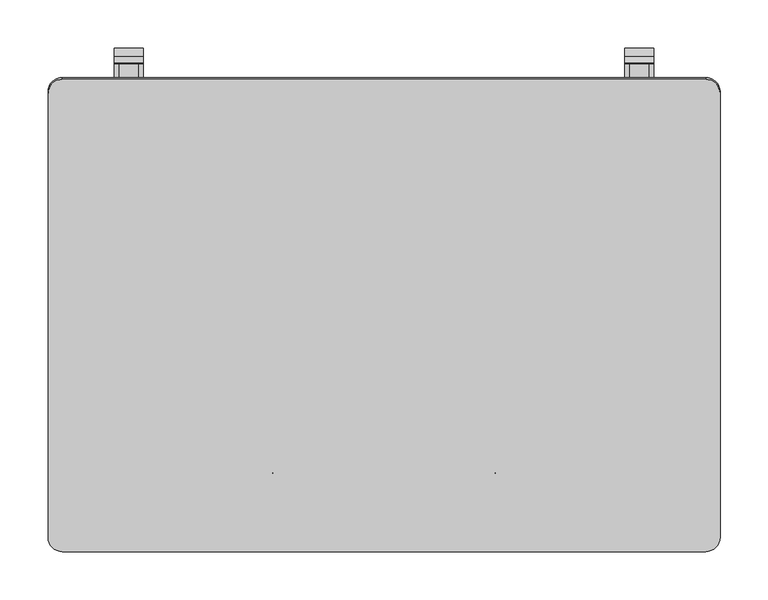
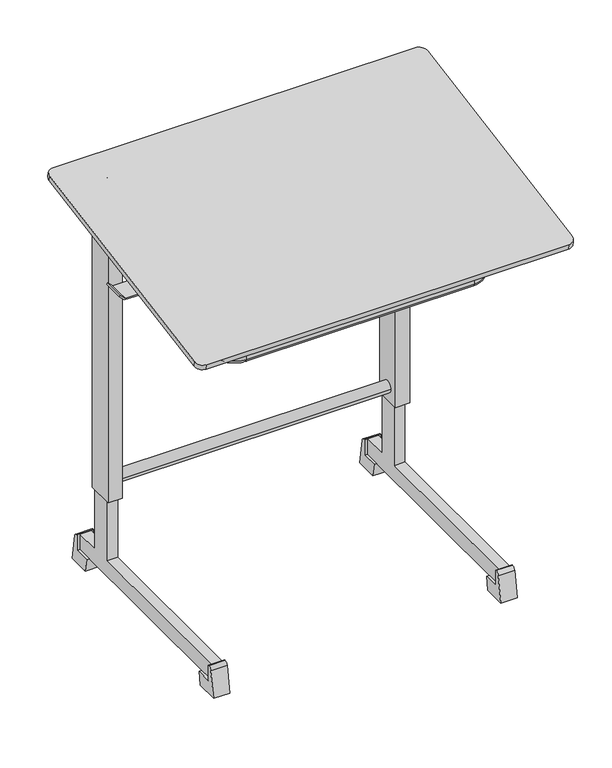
"""IFC4 building model written with IfcOpenShell, lengths in millimetres: furniture geometry, Trivia table : 70 tiltable with drawer."""

from ifc_helpers import new_model, si_unit, point, frame, frame_2d, origin, place, context, project, spatial, polyline, circle_curve, ellipse_curve, trimmed, segment, composite_curve, outline, extrude, faceted_brep, source, transform, mapped, element, save
from ifc_brep_helpers import plane_surface, cylinder_surface, revolved_surface, advanced_brep


def furniture_afccc64a(model_context):
    return source(origin(), model_context, "Body", "SolidModel", [
        advanced_brep(
        [(-242.1886902, -120.5095927, 696.521797), (-242.1886902, -120.5095927, 628.2965405), (-242.1886902, 129.6420925, 628.2965405), (-242.1886902, 144.6420925, 628.2965405), (-242.1886902, 144.6420925, 668.000493), (-242.1886902, 176.1657584, 668.000493), (-242.1886902, 176.1657584, 690.521797), (-242.1886902, 176.1657584, 696.521797), (-211.0, -151.6982829, 628.2965405), (211.0, -151.6982829, 628.2965405), (242.1886902, -120.5095927, 628.2965405), (242.1886902, 129.6420925, 628.2965405), (242.1886902, 144.6420925, 628.2965405), (242.1886902, -120.5095927, 622.2965405), (211.0, -151.6982829, 622.2965405), (-211.0, -151.6982829, 622.2965405), (-242.1886902, -120.5095927, 622.2965405), (-242.1886902, 129.6420925, 622.2965405), (-242.1886902, 144.6420925, 622.2965405), (242.1886902, 144.6420925, 622.2965405), (242.1886902, 129.6420925, 622.2965405), (-248.1886902, -120.5095927, 628.2965405), (-248.1886902, 150.6420925, 628.2965405), (-248.1886902, -120.5095927, 690.521797), (-248.1886902, 182.1657584, 690.521797), (-248.1886902, 182.1657584, 668.000493), (-248.1886902, 176.1657584, 662.000493), (-248.1886902, 150.6420925, 662.000493), (275.0, -120.5095927, 690.521797), (211.0, -184.5095927, 690.521797), (-211.0, -184.5095927, 690.521797), (-275.0, -120.5095927, 690.521797), (-275.0, 167.0000173, 690.521797), (-253.0, 167.0000173, 690.521797), (-253.0, 211.0000176, 690.521797), (253.0, 211.0000176, 690.521797), (253.0, 167.0000173, 690.521797), (275.0, 167.0000173, 690.521797), (-211.0, -157.6982829, 690.521797), (211.0, -157.6982829, 690.521797), (248.1886902, -120.5095927, 690.521797), (248.1886902, 182.1657584, 690.521797), (-281.0, -120.5095927, 670.0758066), (-281.0, -120.5095927, 696.521797), (-281.0, 167.0000173, 696.521797), (-281.0, 167.0000173, 670.0758066), (-211.0, -190.5095927, 696.521797), (211.0, -190.5095927, 696.521797), (281.0, -120.5095927, 696.521797), (281.0, 167.0000173, 696.521797), (253.0, 167.0000173, 696.521797), (253.0, 211.0000176, 696.521797), (-253.0, 211.0000176, 696.521797), (-253.0, 167.0000173, 696.521797), (242.1886902, -120.5095927, 696.521797), (211.0, -151.6982829, 696.521797), (-211.0, -151.6982829, 696.521797), (242.1886902, 176.1657584, 696.521797), (-211.0, -157.6982829, 628.2965405), (-211.0, -190.5095927, 670.0758066), (211.0, -157.6982829, 628.2965405), (211.0, -190.5095927, 670.0758066), (248.1886902, -120.5095927, 628.2965405), (281.0, -120.5095927, 670.0758066), (242.1886902, 176.1657584, 690.521797), (242.1886902, 176.1657584, 668.000493), (242.1886902, 144.6420925, 668.000493), (248.1886902, 150.6420925, 628.2965405), (248.1886902, 150.6420925, 662.000493), (248.1886902, 176.1657584, 662.000493), (248.1886902, 182.1657584, 668.000493), (281.0, 167.0000173, 670.0758066), (-242.1886902, 182.1657584, 668.000493), (242.1886902, 182.1657584, 668.000493), (-242.1886902, 176.1657584, 662.000493), (242.1886902, 176.1657584, 662.000493), (-253.0, 217.0000176, 662.000493), (-253.0, 211.0000176, 662.000493), (-253.0, 217.0000176, 690.521797), (253.0, 217.0000176, 690.521797), (253.0, 217.0000176, 662.000493), (253.0, 211.0000176, 662.000493), (-275.0, -120.5095927, 670.0758066), (-275.0, 167.0000173, 670.0758066), (-211.0, -184.5095927, 670.0758066), (211.0, -184.5095927, 670.0758066), (275.0, -120.5095927, 670.0758066), (275.0, 167.0000173, 670.0758066)],
        [
            (0, 1),
            (1, 2),
            (2, 3),
            (3, 4),
            (4, 5),
            (5, 6),
            (6, 7),
            (7, 0),
            (1, 8, circle_curve(frame((-211.0, -120.5095927, 628.2965405), z_axis=(0.0, 0.0, 1.0), x_axis=(-1.0, 0.0, 0.0)), 31.1886902)),
            (8, 9),
            (9, 10, circle_curve(frame((211.0, -120.5095927, 628.2965405), z_axis=(0.0, 0.0, 1.0), x_axis=(0.0, -1.0, 0.0)), 31.1886902)),
            (10, 11),
            (11, 12),
            (12, 3),
            (13, 14, circle_curve(frame((211.0, -120.5095927, 622.2965405), z_axis=(0.0, 0.0, -1.0), x_axis=(0.0, -1.0, 0.0)), 31.1886902)),
            (14, 15),
            (15, 16, circle_curve(frame((-211.0, -120.5095927, 622.2965405), z_axis=(0.0, 0.0, -1.0), x_axis=(-1.0, 0.0, 0.0)), 31.1886902)),
            (16, 17),
            (17, 18),
            (18, 19),
            (19, 20),
            (20, 13),
            (16, 21, circle_curve(frame((-242.1886902, -120.5095927, 628.2965405), z_axis=(0.0, 1.0, 0.0), x_axis=(1.0, 0.0, 0.0)), 6.0)),
            (21, 22),
            (22, 18, ellipse_curve(frame((-242.1886902, 144.6420925, 628.2965405), z_axis=(-0.707106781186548, -0.7071067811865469, 0.0), x_axis=(-0.7071067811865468, 0.7071067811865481, 0.0)), 8.4852814, 6.0)),
            (21, 23),
            (23, 24),
            (24, 25),
            (25, 26, circle_curve(frame((-248.1886902, 176.1657584, 668.000493), z_axis=(-1.0, 0.0, 0.0), x_axis=(0.0, 1.0, 0.0)), 6.0)),
            (26, 27),
            (27, 22),
            (28, 29, circle_curve(frame((211.0, -120.5095927, 690.521797), z_axis=(0.0, 0.0, -1.0), x_axis=(0.0, -1.0, 0.0)), 64.0)),
            (29, 30),
            (30, 31, circle_curve(frame((-211.0, -120.5095927, 690.521797), z_axis=(0.0, 0.0, -1.0), x_axis=(-1.0, 0.0, 0.0)), 64.0)),
            (31, 32),
            (32, 33),
            (33, 34),
            (34, 35),
            (35, 36),
            (36, 37),
            (37, 28),
            (23, 38, circle_curve(frame((-211.0, -120.5095927, 690.521797), z_axis=(0.0, 0.0, 1.0), x_axis=(-1.0, 0.0, 0.0)), 37.1886902)),
            (38, 39),
            (39, 40, circle_curve(frame((211.0, -120.5095927, 690.521797), z_axis=(0.0, 0.0, 1.0), x_axis=(0.0, -1.0, 0.0)), 37.1886902)),
            (40, 41),
            (41, 24),
            (42, 43),
            (43, 44),
            (44, 45),
            (45, 42),
            (43, 46, circle_curve(frame((-211.0, -120.5095927, 696.521797), z_axis=(0.0, 0.0, 1.0), x_axis=(-1.0, 0.0, 0.0)), 70.0)),
            (46, 47),
            (47, 48, circle_curve(frame((211.0, -120.5095927, 696.521797), z_axis=(0.0, 0.0, 1.0), x_axis=(0.0, -1.0, 0.0)), 70.0)),
            (48, 49),
            (49, 50),
            (50, 51),
            (51, 52),
            (52, 53),
            (53, 44),
            (54, 55, circle_curve(frame((211.0, -120.5095927, 696.521797), z_axis=(0.0, 0.0, -1.0), x_axis=(0.0, -1.0, 0.0)), 31.1886902)),
            (55, 56),
            (56, 0, circle_curve(frame((-211.0, -120.5095927, 696.521797), z_axis=(0.0, 0.0, -1.0), x_axis=(-1.0, 0.0, 0.0)), 31.1886902)),
            (7, 57),
            (57, 54),
            (56, 8),
            (15, 58, circle_curve(frame((-211.0, -151.6982829, 628.2965405), z_axis=(-1.0, 0.0, 0.0), x_axis=(0.0, 1.0, 0.0)), 6.0)),
            (58, 21, circle_curve(frame((-211.0, -120.5095927, 628.2965405), z_axis=(0.0, 0.0, -1.0), x_axis=(-1.0, 0.0, 0.0)), 37.1886902)),
            (58, 38),
            (42, 59, circle_curve(frame((-211.0, -120.5095927, 670.0758066), z_axis=(0.0, 0.0, 1.0), x_axis=(-1.0, 0.0, 0.0)), 70.0)),
            (59, 46),
            (55, 9),
            (14, 60, circle_curve(frame((211.0, -151.6982829, 628.2965405), z_axis=(-1.0, 0.0, 0.0), x_axis=(0.0, 1.0, 0.0)), 6.0)),
            (60, 58),
            (60, 39),
            (59, 61),
            (61, 47),
            (54, 10),
            (13, 62, circle_curve(frame((242.1886902, -120.5095927, 628.2965405), z_axis=(0.0, -1.0, 0.0), x_axis=(-1.0, 0.0, 0.0)), 6.0)),
            (62, 60, circle_curve(frame((211.0, -120.5095927, 628.2965405), z_axis=(0.0, 0.0, -1.0), x_axis=(0.0, -1.0, 0.0)), 37.1886902)),
            (62, 40),
            (61, 63, circle_curve(frame((211.0, -120.5095927, 670.0758066), z_axis=(0.0, 0.0, 1.0), x_axis=(0.0, -1.0, 0.0)), 70.0)),
            (63, 48),
            (57, 64),
            (64, 65),
            (65, 66),
            (66, 12),
            (19, 67, ellipse_curve(frame((242.1886902, 144.6420925, 628.2965405), z_axis=(0.7071067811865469, -0.707106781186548, 0.0), x_axis=(-0.7071067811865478, -0.707106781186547, 0.0)), 8.4852814, 6.0)),
            (67, 62),
            (67, 68),
            (68, 69),
            (69, 70, circle_curve(frame((248.1886902, 176.1657584, 668.000493), z_axis=(1.0, 0.0, 0.0), x_axis=(0.0, 1.0, 0.0)), 6.0)),
            (70, 41),
            (63, 71),
            (71, 49),
            (72, 25),
            (70, 73),
            (73, 72),
            (26, 74),
            (74, 75),
            (75, 69),
            (68, 27),
            (67, 22),
            (72, 74, circle_curve(frame((-242.1886902, 176.1657584, 668.000493), z_axis=(-1.0, 0.0, 0.0), x_axis=(0.0, 1.0, 0.0)), 6.0)),
            (75, 73, circle_curve(frame((242.1886902, 176.1657584, 668.000493), z_axis=(1.0, 0.0, 0.0), x_axis=(0.0, 1.0, 0.0)), 6.0)),
            (76, 77),
            (77, 34),
            (33, 53),
            (52, 78, circle_curve(frame((-253.0, 211.0000176, 690.521797), z_axis=(-1.0, 0.0, 0.0), x_axis=(0.0, 1.0, 0.0)), 6.0)),
            (78, 76),
            (79, 80),
            (80, 76),
            (78, 79),
            (5, 65),
            (4, 66),
            (51, 79, circle_curve(frame((253.0, 211.0000176, 690.521797), z_axis=(-1.0, 0.0, 0.0), x_axis=(0.0, 1.0, 0.0)), 6.0)),
            (81, 35),
            (77, 81),
            (80, 81),
            (31, 82),
            (82, 83),
            (83, 32),
            (45, 83),
            (82, 84, circle_curve(frame((-211.0, -120.5095927, 670.0758066), z_axis=(0.0, 0.0, 1.0), x_axis=(-1.0, 0.0, 0.0)), 64.0)),
            (84, 85),
            (85, 86, circle_curve(frame((211.0, -120.5095927, 670.0758066), z_axis=(0.0, 0.0, 1.0), x_axis=(0.0, -1.0, 0.0)), 64.0)),
            (86, 87),
            (87, 71),
            (30, 84),
            (29, 85),
            (28, 86),
            (37, 87),
            (50, 36),
        ],
        [
            plane_surface(frame((-242.1886902, 249.4904073, 696.521797), z_axis=(1.0, 0.0, 0.0), x_axis=(0.0, -1.0, 0.0))),
            plane_surface(frame((-242.1886902, 249.4904073, 628.2965405), z_axis=(0.0, 0.0, 1.0), x_axis=(0.0, -1.0, 0.0))),
            plane_surface(frame((-233.3465399, 249.4904073, 622.2965405), z_axis=(0.0, 0.0, -1.0), x_axis=(0.0, -1.0, 0.0))),
            cylinder_surface(frame((-242.1886902, 249.4904073, 628.2965405), z_axis=(0.0, 1.0, 0.0), x_axis=(1.0, 0.0, 0.0)), 6.0),
            plane_surface(frame((-248.1886902, 249.4904073, 628.2965405), z_axis=(-1.0, 0.0, 0.0), x_axis=(0.0, -1.0, 0.0))),
            plane_surface(frame((-248.1886902, 249.4904073, 690.521797), z_axis=(0.0, 0.0, -1.0), x_axis=(0.0, -1.0, 0.0))),
            plane_surface(frame((-281.0, 249.4904073, 670.0758066), z_axis=(-1.0, 0.0, 0.0), x_axis=(0.0, -1.0, 0.0))),
            plane_surface(frame((-281.0, 249.4904073, 696.521797), z_axis=(0.0, 0.0, 1.0), x_axis=(0.0, -1.0, 0.0))),
            revolved_surface(polyline([(-242.1886902, -120.5095927, 696.521797), (-242.1886902, -120.5095927, 628.2965405)]), (-211.0, -120.5095927, 729.9880943), (0.0, 0.0, 1.0)),
            revolved_surface(trimmed(ellipse_curve(frame((-242.1886902, -120.5095927, 628.2965405), z_axis=(0.0, 1.0, 0.0), x_axis=(1.0, 0.0, 0.0)), 6.0, 6.0), [point((-242.1886902, -120.5095927, 622.2965405))], [point((-248.1886902, -120.5095927, 628.2965405))], True, "CARTESIAN"), (-211.0, -120.5095927, 729.9880943), (0.0, 0.0, 1.0)),
            cylinder_surface(frame((-211.0, -120.5095927, 729.9880943), z_axis=(0.0, 0.0, 1.0), x_axis=(-1.0, 0.0, 0.0)), 37.1886902),
            cylinder_surface(frame((-211.0, -120.5095927, 729.9880943), z_axis=(0.0, 0.0, 1.0), x_axis=(-1.0, 0.0, 0.0)), 70.0),
            plane_surface(frame((-211.0, -151.6982829, 696.521797), z_axis=(0.0, 1.0, 0.0), x_axis=(1.0, 0.0, 0.0))),
            cylinder_surface(frame((-211.0, -151.6982829, 628.2965405), z_axis=(-1.0, 0.0, 0.0), x_axis=(0.0, 1.0, 0.0)), 6.0),
            plane_surface(frame((-211.0, -157.6982829, 628.2965405), z_axis=(0.0, -1.0, 0.0), x_axis=(1.0, 0.0, 0.0))),
            plane_surface(frame((-211.0, -190.5095927, 670.0758066), z_axis=(0.0, -1.0, 0.0), x_axis=(1.0, 0.0, 0.0))),
            revolved_surface(polyline([(211.0, -151.6982829, 696.521797), (211.0, -151.6982829, 628.2965405)]), (211.0, -120.5095927, 729.9880943), (0.0, 0.0, 1.0)),
            revolved_surface(trimmed(ellipse_curve(frame((211.0, -151.6982829, 628.2965405), z_axis=(-1.0, 0.0, 0.0), x_axis=(0.0, 1.0, 0.0)), 6.0, 6.0), [point((211.0, -151.6982829, 622.2965405))], [point((211.0, -157.6982829, 628.2965405))], True, "CARTESIAN"), (211.0, -120.5095927, 729.9880943), (0.0, 0.0, 1.0)),
            cylinder_surface(frame((211.0, -120.5095927, 729.9880943), z_axis=(0.0, 0.0, 1.0), x_axis=(0.0, -1.0, 0.0)), 37.1886902),
            cylinder_surface(frame((211.0, -120.5095927, 729.9880943), z_axis=(0.0, 0.0, 1.0), x_axis=(0.0, -1.0, 0.0)), 70.0),
            plane_surface(frame((242.1886902, -120.5095927, 696.521797), z_axis=(-1.0, 0.0, 0.0), x_axis=(0.0, 1.0, 0.0))),
            cylinder_surface(frame((242.1886902, -120.5095927, 628.2965405), z_axis=(0.0, -1.0, 0.0), x_axis=(-1.0, 0.0, 0.0)), 6.0),
            plane_surface(frame((248.1886902, -120.5095927, 628.2965405), z_axis=(1.0, 0.0, 0.0), x_axis=(0.0, 1.0, 0.0))),
            plane_surface(frame((281.0, -120.5095927, 670.0758066), z_axis=(1.0, 0.0, 0.0), x_axis=(0.0, 1.0, 0.0))),
            plane_surface(frame((300.0, 182.1657584, 696.521797), z_axis=(0.0, 1.0, 0.0), x_axis=(-1.0, 0.0, 0.0))),
            plane_surface(frame((300.0, 176.1657584, 662.000493), z_axis=(0.0, 0.0, -1.0), x_axis=(-1.0, 0.0, 0.0))),
            plane_surface(frame((300.0, 150.6420925, 662.000493), z_axis=(0.0, 1.0, 0.0), x_axis=(-1.0, 0.0, 0.0))),
            cylinder_surface(frame((-300.0, 176.1657584, 668.000493), z_axis=(-1.0, 0.0, 0.0), x_axis=(0.0, 1.0, 0.0)), 6.0),
            cylinder_surface(frame((-300.0, 144.6420925, 628.2965405), z_axis=(-1.0, 0.0, 0.0), x_axis=(0.0, 1.0, 0.0)), 6.0),
            plane_surface(frame((-253.0, 217.0000176, 696.521797), z_axis=(-1.0, 0.0, 0.0), x_axis=(0.0, 0.0, -1.0))),
            plane_surface(frame((253.0, 217.0000176, 662.000493), z_axis=(0.0, 1.0, 0.0), x_axis=(-1.0, 0.0, 0.0))),
            plane_surface(frame((253.0, 176.1657584, 696.521797), z_axis=(0.0, -1.0, 0.0), x_axis=(-1.0, 0.0, 0.0))),
            plane_surface(frame((253.0, 176.1657584, 668.000493), z_axis=(0.0, 0.0, 1.0), x_axis=(-1.0, 0.0, 0.0))),
            plane_surface(frame((253.0, 144.6420925, 668.000493), z_axis=(0.0, -1.0, 0.0), x_axis=(-1.0, 0.0, 0.0))),
            cylinder_surface(frame((-253.0, 176.1657584, 668.000493), z_axis=(1.0, 0.0, 0.0), x_axis=(0.0, 1.0, 0.0)), 6.0),
            cylinder_surface(frame((-253.0, 211.0000176, 690.521797), z_axis=(1.0, 0.0, 0.0), x_axis=(0.0, 1.0, 0.0)), 6.0),
            plane_surface(frame((253.0, 211.0000176, 690.521797), z_axis=(0.0, -1.0, 0.0), x_axis=(-1.0, 0.0, 0.0))),
            plane_surface(frame((253.0, 211.0000176, 662.000493), z_axis=(0.0, 0.0, -1.0), x_axis=(-1.0, 0.0, 0.0))),
            plane_surface(frame((-275.0, 249.4904073, 690.521797), z_axis=(1.0, 0.0, 0.0), x_axis=(0.0, -1.0, 0.0))),
            plane_surface(frame((-275.0, 249.4904073, 670.0758066), z_axis=(0.0, 0.0, -1.0), x_axis=(0.0, -1.0, 0.0))),
            revolved_surface(polyline([(-275.0, -120.5095927, 690.521797), (-275.0, -120.5095927, 670.0758066)]), (-211.0, -120.5095927, 729.9880943), (0.0, 0.0, 1.0)),
            plane_surface(frame((-211.0, -184.5095927, 690.521797), z_axis=(0.0, 1.0, 0.0), x_axis=(1.0, 0.0, 0.0))),
            revolved_surface(polyline([(211.0, -184.50959269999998, 690.521797), (211.0, -184.50959269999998, 670.0758066)]), (211.0, -120.5095927, 729.9880943), (0.0, 0.0, 1.0)),
            plane_surface(frame((275.0, -120.5095927, 690.521797), z_axis=(-1.0, 0.0, 0.0), x_axis=(0.0, 1.0, 0.0))),
            plane_surface(frame((253.0, 167.0000173, 696.521797), z_axis=(1.0, 0.0, 0.0), x_axis=(0.0, 0.0, 1.0))),
            plane_surface(frame((281.0, 167.0000173, 696.521797), z_axis=(0.0, 1.0, 0.0), x_axis=(-1.0, 0.0, 0.0))),
            plane_surface(frame((-281.0, 167.0000173, 622.2965405), z_axis=(0.0, 1.0, 0.0), x_axis=(1.0, 0.0, 0.0))),
        ],
        [
            (0, [[1, 2, 3, 4, 5, 6, 7, 8]]),
            (1, [[9, 10, 11, 12, 13, 14, -3, -2]]),
            (2, [[15, 16, 17, 18, 19, 20, 21, 22]]),
            (3, [[23, 24, 25, -19, -18]]),
            (4, [[26, 27, 28, 29, 30, 31, -24]]),
            (5, [[32, 33, 34, 35, 36, 37, 38, 39, 40, 41], [42, 43, 44, 45, 46, -27]]),
            (6, [[47, 48, 49, 50]]),
            (7, [[51, 52, 53, 54, 55, 56, 57, 58, 59, -48], [60, 61, 62, -8, 63, 64]]),
            (8, [[-1, -62, 65, -9]]),
            (9, [[-17, 66, 67, -23]]),
            (10, [[-26, -67, 68, -42]]),
            (11, [[-47, 69, 70, -51]]),
            (12, [[-10, -65, -61, 71]]),
            (13, [[-16, 72, 73, -66]]),
            (14, [[-43, -68, -73, 74]]),
            (15, [[-52, -70, 75, 76]]),
            (16, [[-11, -71, -60, 77]]),
            (17, [[-15, 78, 79, -72]]),
            (18, [[-44, -74, -79, 80]]),
            (19, [[-53, -76, 81, 82]]),
            (20, [[-77, -64, 83, 84, 85, 86, -13, -12]]),
            (21, [[-78, -22, -21, 87, 88]]),
            (22, [[-80, -88, 89, 90, 91, 92, -45]]),
            (23, [[-82, 93, 94, -54]]),
            (24, [[95, -28, -46, -92, 96, 97]]),
            (25, [[98, 99, 100, -90, 101, -30]]),
            (26, [[-31, -101, -89, 102]]),
            (27, [[-98, -29, -95, 103]]),
            (27, [[-100, 104, -96, -91]]),
            (28, [[-20, -25, -102, -87]]),
            (29, [[105, 106, -37, 107, -58, 108, 109]]),
            (30, [[110, 111, -109, 112]]),
            (31, [[113, -84, -83, -63, -7, -6]]),
            (32, [[-113, -5, 114, -85]]),
            (33, [[-114, -4, -14, -86]]),
            (34, [[-99, -103, -97, -104]]),
            (35, [[115, -112, -108, -57]]),
            (36, [[116, -38, -106, 117]]),
            (37, [[118, -117, -105, -111]]),
            (38, [[119, 120, 121, -35]]),
            (39, [[-69, -50, 122, -120, 123, 124, 125, 126, 127, -93, -81, -75]]),
            (40, [[-34, 128, -123, -119]]),
            (41, [[-33, 129, -124, -128]]),
            (42, [[-32, 130, -125, -129]]),
            (43, [[-130, -41, 131, -126]]),
            (44, [[132, -39, -116, -118, -110, -115, -56]]),
            (45, [[-132, -55, -94, -127, -131, -40]]),
            (46, [[-107, -36, -121, -122, -49, -59]]),
        ],
    ),
        extrude(outline(polyline([(-279.0, 167.0000173), (-279.0, 217.0000176), (-253.0, 217.0000176), (-253.0, 167.0000173), (-279.0, 167.0000173)])), frame((0.0, 0.0, 690.521797), z_axis=(0.0, 0.0, 1.0), x_axis=(1.0, 0.0, 0.0)), (0.0, 0.0, 1.0), 6.0),
        extrude(outline(polyline([(279.0, 217.0000176), (279.0, 167.0000173), (253.0, 167.0000173), (253.0, 217.0000176), (279.0, 217.0000176)])), frame((0.0, 0.0, 690.521797), z_axis=(0.0, 0.0, 1.0), x_axis=(1.0, 0.0, 0.0)), (0.0, 0.0, 1.0), 6.0),
        extrude(outline(composite_curve([segment(polyline([(209.8609292, 696.5337027), (172.337409, 696.5337027), (172.337409, 764.4606409), (202.8945629, 780.9470192)]), True, "CONTINUOUS"), segment(trimmed(circle_curve(frame_2d((206.1065452, 774.9936779)), 6.7645475), [point((202.8945629, 780.9470192))], [point((212.6701567, 773.3571858))], False, "CARTESIAN"), True, "CONTINUOUS"), segment(polyline([(212.6701567, 773.3571858), (209.8609292, 762.0899894), (209.8609292, 696.5337027)]), True, "CONTINUOUS")], self_intersect=False), holes=[composite_curve([segment(trimmed(circle_curve(frame_2d((206.4529115, 775.5845406)), 3.0), [point((203.4529115, 775.5845406))], [point((209.4529115, 775.5845406))], True, "CARTESIAN"), True, "CONTINUOUS"), segment(trimmed(circle_curve(frame_2d((206.4529115, 775.5845406)), 3.0), [point((209.4529115, 775.5845406))], [point((203.4529115, 775.5845406))], True, "CARTESIAN"), True, "CONTINUOUS")], self_intersect=False)]), frame((-258.0, 0.0, 0.0), z_axis=(1.0, 0.0, 0.0), x_axis=(0.0, 1.0, 0.0)), (0.0, 0.0, 1.0), 3.0),
        extrude(outline(composite_curve([segment(polyline([(209.8609292, 696.5337027), (172.337409, 696.5337027), (172.337409, 764.4606409), (202.8945629, 780.9470192)]), True, "CONTINUOUS"), segment(trimmed(circle_curve(frame_2d((206.1065452, 774.9936779)), 6.7645475), [point((202.8945629, 780.9470192))], [point((212.6701567, 773.3571858))], False, "CARTESIAN"), True, "CONTINUOUS"), segment(polyline([(212.6701567, 773.3571858), (209.8609292, 762.0899894), (209.8609292, 696.5337027)]), True, "CONTINUOUS")], self_intersect=False), holes=[composite_curve([segment(trimmed(circle_curve(frame_2d((206.4529115, 775.5845406)), 3.0), [point((203.4529115, 775.5845406))], [point((209.4529115, 775.5845406))], True, "CARTESIAN"), True, "CONTINUOUS"), segment(trimmed(circle_curve(frame_2d((206.4529115, 775.5845406)), 3.0), [point((209.4529115, 775.5845406))], [point((203.4529115, 775.5845406))], True, "CARTESIAN"), True, "CONTINUOUS")], self_intersect=False)]), frame((255.0, 0.0, 0.0), z_axis=(1.0, 0.0, 0.0), x_axis=(0.0, 1.0, 0.0)), (0.0, 0.0, 1.0), 3.0),
        extrude(outline(polyline([(0.0, -50.1182647), (0.0, 0.0), (28.0, 0.0), (28.0, -50.1182647), (0.0, -50.1182647)])), frame((-280.0, 203.7416087, 782.5941187), z_axis=(0.0, -0.1736481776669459, 0.9848077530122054), x_axis=(1.0, 0.0, 0.0)), (0.0, 0.0, 1.0), 2.5978465),
        extrude(outline(composite_curve([segment(trimmed(circle_curve(frame_2d((206.4529115, 775.5845406)), 9.7445512), [point((204.760788, 785.1810501))], [point((204.1825075, 766.108173))], False, "CARTESIAN"), True, "CONTINUOUS"), segment(polyline([(204.1825075, 766.108173), (171.5752359, 776.9223193), (171.1635766, 779.2569553), (204.760788, 785.1810501)]), True, "CONTINUOUS")], self_intersect=False)), frame((-255.0, 0.0, 0.0), z_axis=(1.0, 0.0, 0.0), x_axis=(0.0, 1.0, 0.0)), (0.0, 0.0, 1.0), 3.0),
        extrude(outline(polyline([(0.0, -50.1182647), (0.0, 0.0), (28.0, 0.0), (28.0, -50.1182647), (0.0, -50.1182647)])), frame((280.0, 154.384753, 773.8911734), z_axis=(0.0, -0.1736481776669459, 0.9848077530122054), x_axis=(-1.0, 0.0, 0.0)), (0.0, 0.0, 1.0), 2.5978465),
        extrude(outline(composite_curve([segment(trimmed(circle_curve(frame_2d((206.4529115, 775.5845406)), 9.7445512), [point((204.760788, 785.1810501))], [point((204.1825075, 766.108173))], False, "CARTESIAN"), True, "CONTINUOUS"), segment(polyline([(204.1825075, 766.108173), (171.5752359, 776.9223193), (171.1635766, 779.2569553), (204.760788, 785.1810501)]), True, "CONTINUOUS")], self_intersect=False)), frame((252.0, 0.0, 0.0), z_axis=(1.0, 0.0, 0.0), x_axis=(0.0, 1.0, 0.0)), (0.0, 0.0, 1.0), 3.0),
        extrude(outline(composite_curve([segment(trimmed(circle_curve(frame_2d((0.0, -8.0)), 8.0), [point((0.0, -16.0))], [point((0.0, 0.0))], False, "CARTESIAN"), True, "CONTINUOUS"), segment(trimmed(circle_curve(frame_2d((0.0, -8.0)), 8.0), [point((0.0, 0.0))], [point((0.0, -16.0))], False, "CARTESIAN"), True, "CONTINUOUS")], self_intersect=False)), frame((-115.5, -162.1328007, 696.8902084), z_axis=(0.0, -0.17364817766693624, 0.984807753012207), x_axis=(0.0, -0.984807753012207, -0.17364817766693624)), (0.0, 0.0, 1.0), 23.4662973),
        extrude(outline(composite_curve([segment(trimmed(circle_curve(frame_2d((0.0, 239.0)), 8.0), [point((0.0, 231.0))], [point((0.0, 247.0))], False, "CARTESIAN"), True, "CONTINUOUS"), segment(trimmed(circle_curve(frame_2d((0.0, 239.0)), 8.0), [point((0.0, 247.0))], [point((0.0, 231.0))], False, "CARTESIAN"), True, "CONTINUOUS")], self_intersect=False)), frame((-115.5, -162.1328007, 696.8902084), z_axis=(0.0, -0.17364817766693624, 0.984807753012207), x_axis=(0.0, -0.984807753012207, -0.17364817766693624)), (0.0, 0.0, 1.0), 23.4662973),
        extrude(outline(composite_curve([segment(polyline([(15.0, -15.0), (15.0, -685.0)]), True, "CONTINUOUS"), segment(trimmed(circle_curve(frame_2d((0.0, -685.0)), 15.0), [point((15.0, -685.0))], [point((0.0, -700.0))], False, "CARTESIAN"), True, "CONTINUOUS"), segment(polyline([(0.0, -700.0), (-470.0, -700.0)]), True, "CONTINUOUS"), segment(trimmed(circle_curve(frame_2d((-470.0, -685.0)), 15.0), [point((-470.0, -700.0))], [point((-485.0, -685.0))], False, "CARTESIAN"), True, "CONTINUOUS"), segment(polyline([(-485.0, -685.0), (-485.0, -15.0)]), True, "CONTINUOUS"), segment(trimmed(circle_curve(frame_2d((-470.0, -15.0)), 15.0), [point((-485.0, -15.0))], [point((-470.0, 0.0))], False, "CARTESIAN"), True, "CONTINUOUS"), segment(polyline([(-470.0, 0.0), (0.0, 0.0)]), True, "CONTINUOUS"), segment(trimmed(circle_curve(frame_2d((0.0, -15.0)), 15.0), [point((0.0, 0.0))], [point((15.0, -15.0))], False, "CARTESIAN"), True, "CONTINUOUS")], self_intersect=False)), frame((350.0, -230.0249139, 708.7472999), z_axis=(0.0, -0.17364817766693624, 0.984807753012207), x_axis=(0.0, -0.984807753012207, -0.17364817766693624)), (0.0, 0.0, 1.0), 10.0),
        extrude(outline(polyline([(279.0, 217.0000176), (279.0, 167.0000173), (253.0, 167.0000173), (253.0, 217.0000176), (279.0, 217.0000176)])), frame((0.0, 0.0, 690.0), z_axis=(0.0, 0.0, 1.0), x_axis=(1.0, 0.0, 0.0)), (0.0, 0.0, 1.0), 6.5337027),
        extrude(outline(polyline([(-279.0, 167.0000173), (-279.0, 217.0000176), (-253.0, 217.0000176), (-253.0, 167.0000173), (-279.0, 167.0000173)])), frame((0.0, 0.0, 690.0), z_axis=(0.0, 0.0, 1.0), x_axis=(1.0, 0.0, 0.0)), (0.0, 0.0, 1.0), 6.5337027),
        faceted_brep([(-256.0, 167.0000173, 669.978232), (-256.0, 167.0000173, 624.071059), (-259.0, 167.0000173, 624.071059), (-259.0, 167.0000173, 669.978232), (-256.0, 138.1962488, 624.071059), (-259.0, 138.1962488, 624.071059), (-256.0, 97.8407812, 617.478232), (-256.0, 97.8407812, 669.978232), (-259.0, 97.8407812, 669.978232), (-259.0, 97.8407812, 620.478232), (-287.2573593, 97.8407812, 620.478232), (-296.274477, 97.8407812, 629.4953497), (-298.3957973, 97.8407812, 627.3740293), (-288.5, 97.8407812, 617.478232), (-256.0, 138.1962488, 617.478232), (-288.5, 138.1962488, 617.478232), (-298.3957973, 138.1962488, 627.3740293), (-296.274477, 138.1962488, 629.4953497), (-287.2573593, 138.1962488, 620.478232), (-259.0, 138.1962488, 620.478232)], [[[0, 1, 2, 3]], [[2, 1, 4, 5]], [[6, 7, 8, 9, 10, 11, 12, 13]], [[14, 15, 16, 17, 18, 19, 5, 4]], [[10, 9, 19, 18]], [[11, 10, 18, 17]], [[12, 11, 17, 16]], [[13, 12, 16, 15]], [[6, 13, 15, 14]], [[9, 8, 3, 2, 5, 19]], [[7, 6, 14, 4, 1, 0]], [[8, 7, 0, 3]]]),
        faceted_brep([(256.0, 167.0000173, 669.978232), (259.0, 167.0000173, 669.978232), (259.0, 167.0000173, 624.071059), (256.0, 167.0000173, 624.071059), (259.0, 97.8407812, 669.978232), (259.0, 97.8407812, 620.478232), (259.0, 138.1962488, 620.478232), (259.0, 138.1962488, 624.071059), (256.0, 138.1962488, 624.071059), (256.0, 138.1962488, 617.478232), (256.0, 97.8407812, 617.478232), (256.0, 97.8407812, 669.978232), (288.5, 97.8407812, 617.478232), (298.3957973, 97.8407812, 627.3740293), (296.274477, 97.8407812, 629.4953497), (287.2573593, 97.8407812, 620.478232), (287.2573593, 138.1962488, 620.478232), (296.274477, 138.1962488, 629.4953497), (298.3957973, 138.1962488, 627.3740293), (288.5, 138.1962488, 617.478232)], [[[0, 1, 2, 3]], [[2, 1, 4, 5, 6, 7]], [[3, 2, 7, 8]], [[0, 3, 8, 9, 10, 11]], [[10, 12, 13, 14, 15, 5, 4, 11]], [[6, 16, 17, 18, 19, 9, 8, 7]], [[5, 15, 16, 6]], [[15, 14, 17, 16]], [[14, 13, 18, 17]], [[13, 12, 19, 18]], [[12, 10, 9, 19]], [[1, 0, 11, 4]]]),
        extrude(outline(polyline([(-279.0, 167.0000173), (-279.0, 217.0000176), (-253.0, 217.0000176), (-253.0, 167.0000173), (-279.0, 167.0000173)])), frame((0.0, 0.0, 175.0), z_axis=(0.0, 0.0, 1.0), x_axis=(1.0, 0.0, 0.0)), (0.0, 0.0, 1.0), 515.000029),
        extrude(outline(polyline([(279.0, 217.0000176), (279.0, 167.0000173), (253.0, 167.0000173), (253.0, 217.0000176), (279.0, 217.0000176)])), frame((0.0, 0.0, 175.0), z_axis=(0.0, 0.0, 1.0), x_axis=(1.0, 0.0, 0.0)), (0.0, 0.0, 1.0), 515.000029),
        extrude(outline(composite_curve([segment(polyline([(236.4808233, 0.0), (232.2713678, 25.0000002), (262.3523545, 25.0000002), (262.3523545, 54.9999995), (263.3217876, 54.9999995)]), True, "CONTINUOUS"), segment(trimmed(circle_curve(frame_2d((263.3217876, 48.0256071)), 6.9743924), [point((263.3217876, 54.9999995))], [point((270.1993675, 49.1836417))], False, "CARTESIAN"), True, "CONTINUOUS"), segment(polyline([(270.1993675, 49.1836417), (278.4808214, 0.0), (236.4808233, 0.0)]), True, "CONTINUOUS")], self_intersect=False)), frame((-281.0, 0.0, 0.0), z_axis=(1.0, 0.0, 0.0), x_axis=(0.0, 1.0, 0.0)), (0.0, 0.0, 1.0), 30.0),
        extrude(outline(composite_curve([segment(polyline([(-132.5791756, 0.0), (-174.5791737, 0.0), (-166.2977198, 49.1836417)]), True, "CONTINUOUS"), segment(trimmed(circle_curve(frame_2d((-159.4201399, 48.0256071)), 6.9743924), [point((-166.2977198, 49.1836417))], [point((-159.4201399, 54.9999995))], False, "CARTESIAN"), True, "CONTINUOUS"), segment(polyline([(-159.4201399, 54.9999995), (-158.4507069, 54.9999995), (-158.4507069, 25.0000002), (-128.3697201, 25.0000002), (-132.5791756, 0.0)]), True, "CONTINUOUS")], self_intersect=False)), frame((-281.0, 0.0, 0.0), z_axis=(1.0, 0.0, 0.0), x_axis=(0.0, 1.0, 0.0)), (0.0, 0.0, 1.0), 30.0),
        extrude(outline(polyline([(215.2376978, 54.9999995), (262.3523545, 54.9999995), (262.3523545, 25.0000002), (-158.4507069, 25.0000002), (-158.4507069, 54.9999995), (176.2500158, 54.9999995), (176.2500158, 175.0), (215.2376978, 175.0), (215.2376978, 54.9999995)])), frame((-276.0, 0.0, 0.0), z_axis=(1.0, 0.0, 0.0), x_axis=(0.0, 1.0, 0.0)), (0.0, 0.0, 1.0), 20.0),
        extrude(outline(composite_curve([segment(polyline([(236.4808233, 0.0), (232.2713678, 25.0000002), (262.3523545, 25.0000002), (262.3523545, 54.9999995), (263.3217876, 54.9999995)]), True, "CONTINUOUS"), segment(trimmed(circle_curve(frame_2d((263.3217876, 48.0256071)), 6.9743924), [point((263.3217876, 54.9999995))], [point((270.1993675, 49.1836417))], False, "CARTESIAN"), True, "CONTINUOUS"), segment(polyline([(270.1993675, 49.1836417), (278.4808214, 0.0), (236.4808233, 0.0)]), True, "CONTINUOUS")], self_intersect=False)), frame((251.0, 0.0, 0.0), z_axis=(1.0, 0.0, 0.0), x_axis=(0.0, 1.0, 0.0)), (0.0, 0.0, 1.0), 30.0),
        extrude(outline(composite_curve([segment(polyline([(-132.5791756, 0.0), (-174.5791737, 0.0), (-166.2977198, 49.1836417)]), True, "CONTINUOUS"), segment(trimmed(circle_curve(frame_2d((-159.4201399, 48.0256071)), 6.9743924), [point((-166.2977198, 49.1836417))], [point((-159.4201399, 54.9999995))], False, "CARTESIAN"), True, "CONTINUOUS"), segment(polyline([(-159.4201399, 54.9999995), (-158.4507069, 54.9999995), (-158.4507069, 25.0000002), (-128.3697201, 25.0000002), (-132.5791756, 0.0)]), True, "CONTINUOUS")], self_intersect=False)), frame((251.0, 0.0, 0.0), z_axis=(1.0, 0.0, 0.0), x_axis=(0.0, 1.0, 0.0)), (0.0, 0.0, 1.0), 30.0),
        extrude(outline(polyline([(215.2376978, 54.9999995), (262.3523545, 54.9999995), (262.3523545, 25.0000002), (-158.4507069, 25.0000002), (-158.4507069, 54.9999995), (176.2500158, 54.9999995), (176.2500158, 175.0), (215.2376978, 175.0), (215.2376978, 54.9999995)])), frame((256.0, 0.0, 0.0), z_axis=(1.0, 0.0, 0.0), x_axis=(0.0, 1.0, 0.0)), (0.0, 0.0, 1.0), 20.0),
        extrude(outline(composite_curve([segment(trimmed(circle_curve(frame_2d((211.0, -117.0000068)), 45.0), [point((211.0, -162.0000068))], [point((256.0, -117.0000068))], True, "CARTESIAN"), True, "CONTINUOUS"), segment(polyline([(256.0, -117.0000068), (256.0, 167.0000173), (276.0, 167.0000173), (276.0, -117.0000067)]), True, "CONTINUOUS"), segment(trimmed(circle_curve(frame_2d((211.0, -117.0000068)), 65.0), [point((276.0, -117.0000067))], [point((211.0, -182.0000068))], False, "CARTESIAN"), True, "CONTINUOUS"), segment(polyline([(211.0, -182.0000068), (-211.0, -182.0000067)]), True, "CONTINUOUS"), segment(trimmed(circle_curve(frame_2d((-211.0, -117.0000068)), 65.0), [point((-211.0, -182.0000067))], [point((-276.0, -117.0000068))], False, "CARTESIAN"), True, "CONTINUOUS"), segment(polyline([(-276.0, -117.0000068), (-276.0, 167.0000173), (-256.0, 167.0000173), (-256.0, -117.0000068)]), True, "CONTINUOUS"), segment(trimmed(circle_curve(frame_2d((-211.0, -117.0000068)), 45.0), [point((-256.0, -117.0000068))], [point((-211.0, -162.0000068))], True, "CARTESIAN"), True, "CONTINUOUS"), segment(polyline([(-211.0, -162.0000068), (211.0, -162.0000068)]), True, "CONTINUOUS")], self_intersect=False)), frame((0.0, 0.0, 669.978232), z_axis=(0.0, 0.0, 1.0), x_axis=(1.0, 0.0, 0.0)), (0.0, 0.0, 1.0), 20.0094431),
        extrude(outline(composite_curve([segment(trimmed(circle_curve(frame_2d((192.0000175, 202.0000098)), 11.0), [point((181.0000175, 202.0000098))], [point((203.0000175, 202.0000098))], False, "CARTESIAN"), True, "CONTINUOUS"), segment(trimmed(circle_curve(frame_2d((192.0000175, 202.0000098)), 11.0), [point((203.0000175, 202.0000098))], [point((181.0000175, 202.0000098))], False, "CARTESIAN"), True, "CONTINUOUS")], self_intersect=False)), frame((-253.0, 0.0, 0.0), z_axis=(1.0, 0.0, 0.0), x_axis=(0.0, 1.0, 0.0)), (0.0, 0.0, 1.0), 506.0),
        extrude(outline(polyline([(253.0, 209.9876913), (253.0, 190.0123117), (-253.0, 190.0123117), (-253.0, 209.9876913), (253.0, 209.9876913)])), frame((0.0, 0.0, 660.0123245), z_axis=(0.0, 0.0, 1.0), x_axis=(1.0, 0.0, 0.0)), (0.0, 0.0, 1.0), 29.9753506),
    ])


if __name__ == "__main__":
    model = new_model("IFC4")
    model_context = context("Model", 3, world=origin())
    ifc_project = project(units=[si_unit("LENGTHUNIT", "METRE", prefix="MILLI")], contexts=[model_context])
    site = spatial("IfcSite", under=ifc_project)
    building = spatial("IfcBuilding", under=site)
    placement = place(None, origin())
    furniture_shape = furniture_afccc64a(model_context)
    element("IfcFurniture", 1, ObjectType="Trivia table : 70 tiltable with drawer", at=placement, inside=building, context=model_context, shape_type="MappedRepresentation", body=[
        mapped(furniture_shape, transform((0.0, 0.0, 0.0), x_axis=(1.0, 0.0, 0.0), y_axis=(0.0, 1.0, 0.0), z_axis=(0.0, 0.0, 1.0))),
    ])
    save(model, "model.ifc")
